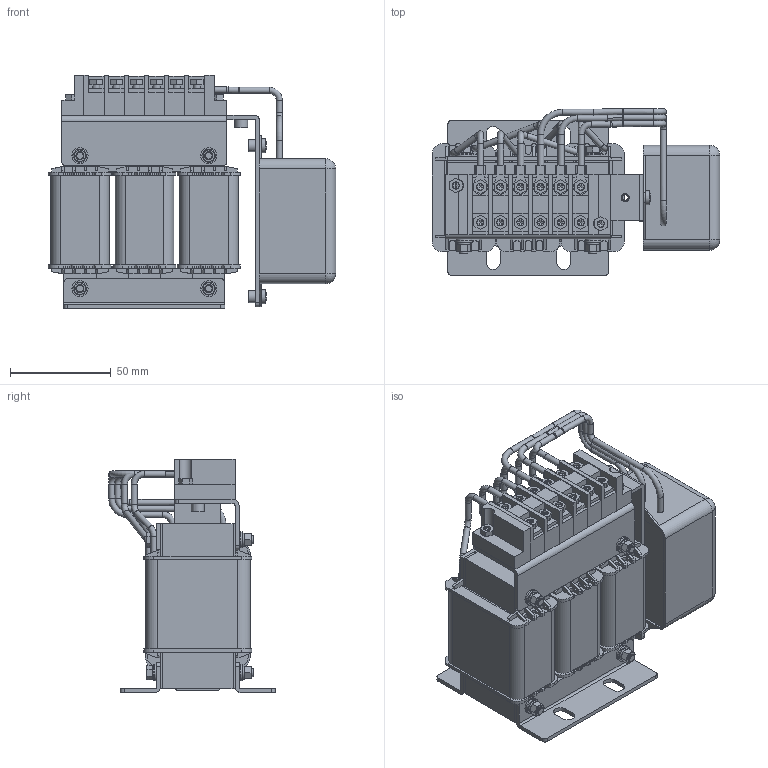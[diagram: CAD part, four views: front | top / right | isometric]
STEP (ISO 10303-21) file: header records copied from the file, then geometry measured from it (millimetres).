
FILE_DESCRIPTION(('STEP AP203'), '1');
FILE_NAME('IDUDT-4.0_10-4 _ dU_dT ôèëüòð 4.0 êÂò', '', ('UNSPECIFIED'), ('UNSPECIFIED'), 'C3D Converter', 'C3D Toolkit', '');
FILE_SCHEMA(('CONFIG_CONTROL_DESIGN'));
Length unit declared in the file: millimetre
Products named in the file (6): IDUDT-4.0/10-4
Assembly tree (6 placements, depth 2):
  IDUDT-4.0/10-4
    (unnamed)
    (unnamed)
    (unnamed)
    (unnamed)  x2
    (unnamed)
Bounding box: 142.72 x 82.73 x 116 mm (x, y, z)
Volume: 499576.8 mm3; surface area: 221450.3 mm2
Topology: 136 solids, 142 shells, 2108 faces, 5295 edges, 3493 vertices
Faces by surface type: plane 1487, cylinder 511, cone 68, torus 36, sphere 6
Full cylindrical faces by diameter (mm): 3 x50, 3.369 x4, 3.529 x14, 3.647 x12, 4 x6, 4.3 x4, 4.333 x16, 5 x2, 6 x2, 6.367 x4, 6.5 x1, 7 x2, 8 x16
Entity records: 89658 total; most frequent: CARTESIAN_POINT 21897, ORIENTED_EDGE 10044, DIRECTION 9954, EDGE_CURVE 5034, LINE 3648, VECTOR 3648, VERTEX_POINT 3454, AXIS2_PLACEMENT_3D 3153
